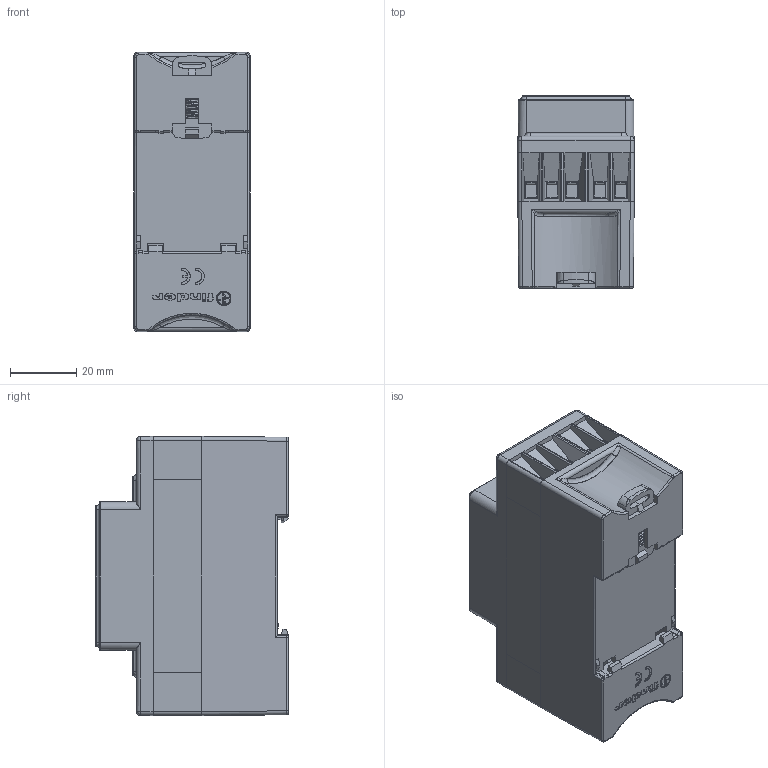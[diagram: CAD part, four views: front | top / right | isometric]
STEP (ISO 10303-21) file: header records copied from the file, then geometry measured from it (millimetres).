
FILE_DESCRIPTION(('STEP AP214'),'2;1');
FILE_NAME('72_11-skin.stp','2010-04-08T11:57:00',(''),(''),'2007.1.106','THINKDESIGN','');
FILE_SCHEMA(('AUTOMOTIVE_DESIGN'));
Products named in the file (1): None
Bounding box: 35 x 58 x 84 mm (x, y, z)
Surface area: 26888.4 mm2 (no closed solid volume)
Topology: 0 solids, 0 shells, 1154 faces, 6635 edges, 6609 vertices
Faces by surface type: plane 839, cylinder 219, bspline 96
Full cylindrical faces by diameter (mm): 3 x10, 4.2 x10, 4.352 x1, 12 x1, 13 x1
Entity records: 74886 total; most frequent: CARTESIAN_POINT 27307, DIRECTION 8266, COMPOSITE_CURVE_SEGMENT 6622, TRIMMED_CURVE 5705, VECTOR 5352, LINE 5352, AXIS2_PLACEMENT_3D 1457, OUTER_BOUNDARY_CURVE 1154
